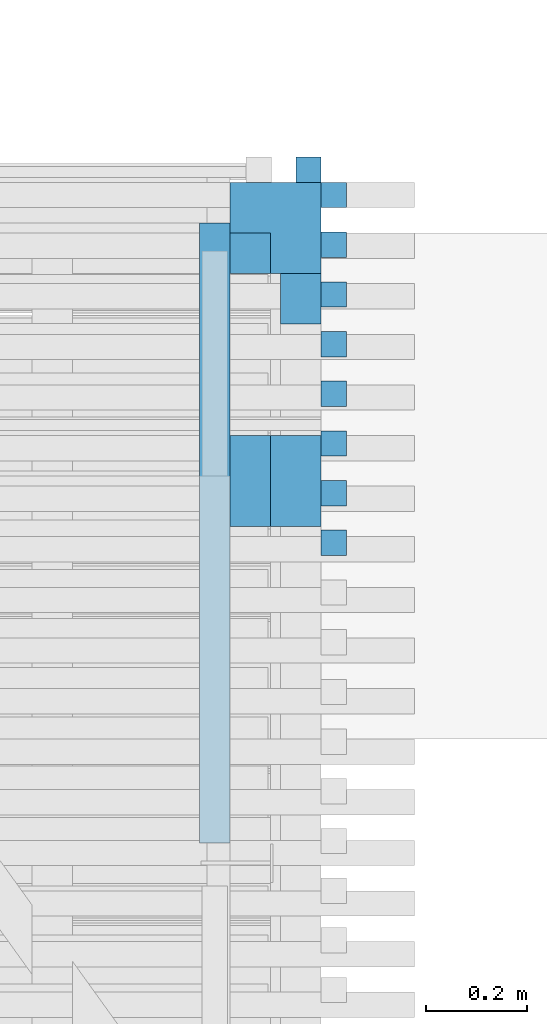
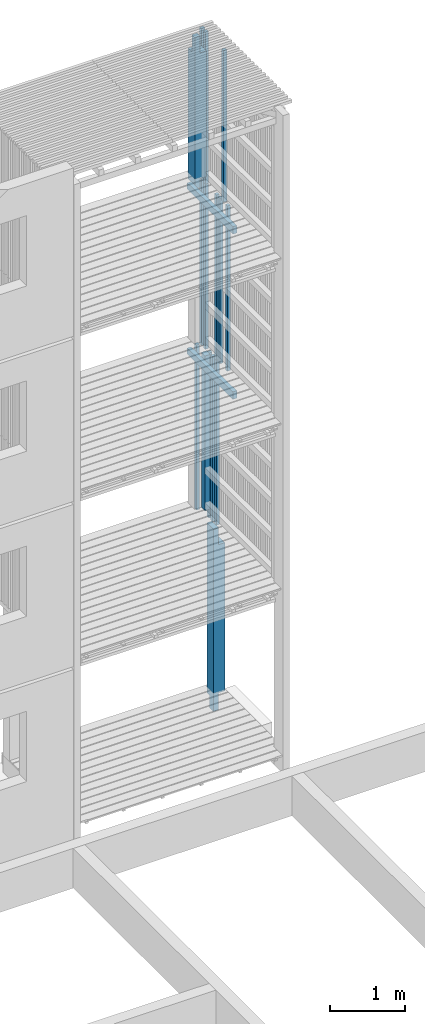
# One storey, part 133 of 182: 17 beams.
"""IFC2X3 building model written with IfcOpenShell, lengths in metres."""

from ifc_helpers import new_model, si_unit, frame, origin, place, context, project, spatial, faceted_brep, element, save


model = new_model("IFC2X3")

# Units and contexts
model_context = context("Model", 3, precision=1e-06, world=origin())
ifc_project = project(units=[si_unit("LENGTHUNIT", "METRE"), si_unit("PLANEANGLEUNIT", "RADIAN")], contexts=[model_context])

# Site, building, storey
site = spatial("IfcSite", under=ifc_project, CompositionType="ELEMENT")
building = spatial("IfcBuilding", under=site, CompositionType="ELEMENT")
storey = spatial("IfcBuildingStorey", under=building, Name="vs", CompositionType="ELEMENT", Elevation=-0.85)

# Beams
placement = place(None, origin())
beam_1_placement = place(placement, frame((56.14499999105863, 5.965077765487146, 8.00424999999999), z_axis=(0.0, 0.0, 1.0), x_axis=(-1.2e-14, 1.0, 0.0)))
element("IfcBeam", 1, at=beam_1_placement, inside=storey, Name="Solive", context=model_context, shape_type="Brep", body=[
    faceted_brep([(-1e-15, -0.029999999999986, 0.061850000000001), (-1e-15, -0.029999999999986, -0.061849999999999), (1.225000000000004, -0.03, -0.061849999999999), (1.225000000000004, -0.03, 0.037349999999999), (-1e-15, -0.029999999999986, -0.061849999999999), (-1e-15, -0.029999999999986, 0.061850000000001), (0.0, 0.030000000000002, 0.061849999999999), (0.0, 0.030000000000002, -0.061849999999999), (1.225000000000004, -0.03, -0.061849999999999), (-1e-15, -0.029999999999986, -0.061849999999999), (0.0, 0.030000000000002, -0.061849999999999), (1.225000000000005, 0.029999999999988, -0.061849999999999), (1.225000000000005, 0.029999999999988, 0.037349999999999), (1.225000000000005, 0.029999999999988, -0.061849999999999), (0.0, 0.030000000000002, -0.061849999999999), (0.0, 0.030000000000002, 0.061849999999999), (1.225000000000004, -0.03, 0.037349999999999), (1.225000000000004, -0.03, -0.061849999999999), (1.225000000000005, 0.029999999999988, -0.061849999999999), (1.225000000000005, 0.029999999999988, 0.037349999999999), (1.225000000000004, -0.03, 0.037349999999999), (1.225000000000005, 0.029999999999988, 0.037349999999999), (0.0, 0.030000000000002, 0.061849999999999), (-1e-15, -0.029999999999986, 0.061850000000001)], [[[0, 1, 2, 3]], [[4, 5, 6, 7]], [[8, 9, 10, 11]], [[12, 13, 14, 15]], [[16, 17, 18, 19]], [[20, 21, 22, 23]]]),
])
beam_2_placement = place(placement, frame((56.37999999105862, 6.852350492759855, 2.575000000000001), z_axis=(-1.0, 0.0, 0.0), x_axis=(0.0, 0.0, 1.0)))
element("IfcBeam", 2, at=beam_2_placement, inside=storey, Name="Bardage", context=model_context, shape_type="Brep", body=[
    faceted_brep([(0.0, -0.024999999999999, 0.024999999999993), (0.0, 0.025000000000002, 0.024999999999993), (0.0, 0.025000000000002, -0.025000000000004), (0.0, -0.024999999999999, -0.025000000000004), (2.699961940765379, 0.025000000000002, -0.025000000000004), (2.699961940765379, 0.025000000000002, 0.024999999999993), (2.699961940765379, -0.024999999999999, 0.024999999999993), (2.699961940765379, -0.024999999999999, -0.025000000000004), (0.0, -0.024999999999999, -0.025000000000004), (0.0, 0.025000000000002, -0.025000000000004), (2.699961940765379, 0.025000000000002, -0.025000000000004), (2.699961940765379, -0.024999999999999, -0.025000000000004), (2.699961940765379, 0.025000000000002, -0.025000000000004), (0.0, 0.025000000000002, -0.025000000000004), (0.0, 0.025000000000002, 0.024999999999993), (2.699961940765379, 0.025000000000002, 0.024999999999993), (2.699961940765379, 0.025000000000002, 0.024999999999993), (0.0, 0.025000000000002, 0.024999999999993), (0.0, -0.024999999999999, 0.024999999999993), (2.699961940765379, -0.024999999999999, 0.024999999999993), (2.699961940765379, -0.024999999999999, 0.024999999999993), (0.0, -0.024999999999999, 0.024999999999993), (0.0, -0.024999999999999, -0.025000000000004), (2.699961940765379, -0.024999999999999, -0.025000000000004)], [[[0, 1, 2, 3]], [[4, 5, 6, 7]], [[8, 9, 10, 11]], [[12, 13, 14, 15]], [[16, 17, 18, 19]], [[20, 21, 22, 23]]]),
])
beam_3_placement = place(placement, frame((56.37999999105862, 6.754168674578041, 5.274999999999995), z_axis=(-1.0, 0.0, 0.0), x_axis=(0.0, 0.0, 1.0)))
element("IfcBeam", 3, at=beam_3_placement, inside=storey, Name="Bardage", context=model_context, shape_type="Brep", body=[
    faceted_brep([(1e-15, -0.024999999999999, 0.024999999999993), (1e-15, 0.024999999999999, 0.024999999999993), (1e-15, 0.024999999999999, -0.025000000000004), (1e-15, -0.024999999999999, -0.025000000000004), (2.699999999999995, -0.024999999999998, -0.025000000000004), (2.699999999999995, 0.024999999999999, -0.025000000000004), (2.699999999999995, 0.024999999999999, 0.024999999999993), (2.699999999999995, -0.024999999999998, 0.024999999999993), (1e-15, -0.024999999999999, 0.024999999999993), (1e-15, -0.024999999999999, -0.025000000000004), (2.699999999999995, -0.024999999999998, -0.025000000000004), (2.699999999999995, -0.024999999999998, 0.024999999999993), (2.699999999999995, -0.024999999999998, -0.025000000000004), (1e-15, -0.024999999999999, -0.025000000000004), (1e-15, 0.024999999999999, -0.025000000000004), (2.699999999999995, 0.024999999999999, -0.025000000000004), (2.699999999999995, 0.024999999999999, -0.025000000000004), (1e-15, 0.024999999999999, -0.025000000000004), (1e-15, 0.024999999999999, 0.024999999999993), (2.699999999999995, 0.024999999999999, 0.024999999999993), (2.699999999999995, 0.024999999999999, 0.024999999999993), (1e-15, 0.024999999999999, 0.024999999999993), (1e-15, -0.024999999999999, 0.024999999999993), (2.699999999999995, -0.024999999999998, 0.024999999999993)], [[[0, 1, 2, 3]], [[4, 5, 6, 7]], [[8, 9, 10, 11]], [[12, 13, 14, 15]], [[16, 17, 18, 19]], [[20, 21, 22, 23]]]),
])
beam_4_placement = place(placement, frame((56.37999999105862, 7.146895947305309, 5.274999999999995), z_axis=(-1.0, 0.0, 0.0), x_axis=(0.0, 0.0, 1.0)))
element("IfcBeam", 4, at=beam_4_placement, inside=storey, Name="Bardage", context=model_context, shape_type="Brep", body=[
    faceted_brep([(1e-15, -0.025000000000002, 0.024999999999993), (1e-15, 0.024999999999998, 0.024999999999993), (1e-15, 0.024999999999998, -0.025000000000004), (1e-15, -0.025000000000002, -0.025000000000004), (2.699999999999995, -0.025000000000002, -0.025000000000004), (2.699999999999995, 0.025000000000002, -0.025000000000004), (2.699999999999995, 0.025000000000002, 0.024999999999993), (2.699999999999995, -0.025000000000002, 0.024999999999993), (1e-15, -0.025000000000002, 0.024999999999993), (1e-15, -0.025000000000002, -0.025000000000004), (2.699999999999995, -0.025000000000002, -0.025000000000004), (2.699999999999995, -0.025000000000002, 0.024999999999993), (2.699999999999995, -0.025000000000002, -0.025000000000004), (1e-15, -0.025000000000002, -0.025000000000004), (1e-15, 0.024999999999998, -0.025000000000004), (2.699999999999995, 0.025000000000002, -0.025000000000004), (2.699999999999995, 0.025000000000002, -0.025000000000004), (1e-15, 0.024999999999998, -0.025000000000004), (1e-15, 0.024999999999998, 0.024999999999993), (2.699999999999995, 0.025000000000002, 0.024999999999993), (2.699999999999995, 0.025000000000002, 0.024999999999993), (1e-15, 0.024999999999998, 0.024999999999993), (1e-15, -0.025000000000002, 0.024999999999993), (2.699999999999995, -0.025000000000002, 0.024999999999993)], [[[0, 1, 2, 3]], [[4, 5, 6, 7]], [[8, 9, 10, 11]], [[12, 13, 14, 15]], [[16, 17, 18, 19]], [[20, 21, 22, 23]]]),
])
beam_5_placement = place(placement, frame((56.37999999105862, 6.852350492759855, 5.274999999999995), z_axis=(-1.0, 0.0, 0.0), x_axis=(0.0, 0.0, 1.0)))
element("IfcBeam", 5, at=beam_5_placement, inside=storey, Name="Bardage", context=model_context, shape_type="Brep", body=[
    faceted_brep([(1e-15, -0.024999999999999, 0.024999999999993), (1e-15, 0.025000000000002, 0.024999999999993), (1e-15, 0.025000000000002, -0.025000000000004), (1e-15, -0.024999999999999, -0.025000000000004), (2.699999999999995, -0.024999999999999, -0.025000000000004), (2.699999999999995, 0.025000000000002, -0.025000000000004), (2.699999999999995, 0.025000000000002, 0.024999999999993), (2.699999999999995, -0.024999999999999, 0.024999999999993), (1e-15, -0.024999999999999, 0.024999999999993), (1e-15, -0.024999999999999, -0.025000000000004), (2.699999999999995, -0.024999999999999, -0.025000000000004), (2.699999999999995, -0.024999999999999, 0.024999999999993), (2.699999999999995, -0.024999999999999, -0.025000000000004), (1e-15, -0.024999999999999, -0.025000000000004), (1e-15, 0.025000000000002, -0.025000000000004), (2.699999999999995, 0.025000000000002, -0.025000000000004), (2.699999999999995, 0.025000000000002, -0.025000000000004), (1e-15, 0.025000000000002, -0.025000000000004), (1e-15, 0.025000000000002, 0.024999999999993), (2.699999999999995, 0.025000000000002, 0.024999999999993), (2.699999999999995, 0.025000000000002, 0.024999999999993), (1e-15, 0.025000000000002, 0.024999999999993), (1e-15, -0.024999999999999, 0.024999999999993), (2.699999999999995, -0.024999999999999, 0.024999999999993)], [[[0, 1, 2, 3]], [[4, 5, 6, 7]], [[8, 9, 10, 11]], [[12, 13, 14, 15]], [[16, 17, 18, 19]], [[20, 21, 22, 23]]]),
])
beam_6_placement = place(placement, frame((56.32999999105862, 7.295077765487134, 2.575000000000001), z_axis=(0.0, -1.0, 0.0), x_axis=(0.0, 0.0, 1.0)))
element("IfcBeam", 6, at=beam_6_placement, inside=storey, Name="Bardage", context=model_context, shape_type="Brep", body=[
    faceted_brep([(2.699961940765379, -0.025000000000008, 0.025000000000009), (2.699961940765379, -0.025000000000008, -0.024999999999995), (2.699961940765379, 0.02499999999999, -0.025000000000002), (2.699961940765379, 0.025000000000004, 0.025000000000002), (0.0, -0.025000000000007, 0.025000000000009), (2.699961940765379, -0.025000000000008, 0.025000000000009), (2.699961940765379, 0.025000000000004, 0.025000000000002), (0.0, 0.025000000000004, 0.025000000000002), (0.0, -0.025000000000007, 0.025000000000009), (0.0, 0.025000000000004, 0.025000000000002), (0.0, 0.02499999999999, -0.025000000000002), (0.0, -0.025000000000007, -0.024999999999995), (0.0, -0.025000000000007, 0.025000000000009), (0.0, -0.025000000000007, -0.024999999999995), (2.699961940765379, -0.025000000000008, -0.024999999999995), (2.699961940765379, -0.025000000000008, 0.025000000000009), (0.0, -0.025000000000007, -0.024999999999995), (0.0, 0.02499999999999, -0.025000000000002), (2.699961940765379, 0.02499999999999, -0.025000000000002), (2.699961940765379, -0.025000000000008, -0.024999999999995), (0.0, 0.02499999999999, -0.025000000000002), (0.0, 0.025000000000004, 0.025000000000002), (2.699961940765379, 0.025000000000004, 0.025000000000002), (2.699961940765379, 0.02499999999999, -0.025000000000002)], [[[0, 1, 2, 3]], [[4, 5, 6, 7]], [[8, 9, 10, 11]], [[12, 13, 14, 15]], [[16, 17, 18, 19]], [[20, 21, 22, 23]]]),
])
beam_7_placement = place(placement, frame((56.37999999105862, 6.557805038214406, 5.274999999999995), z_axis=(-1.0, 0.0, 0.0), x_axis=(0.0, 0.0, 1.0)))
element("IfcBeam", 7, at=beam_7_placement, inside=storey, Name="Bardage", context=model_context, shape_type="Brep", body=[
    faceted_brep([(1e-15, -0.024999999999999, 0.024999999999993), (1e-15, 0.024999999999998, 0.024999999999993), (1e-15, 0.024999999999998, -0.025000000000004), (1e-15, -0.024999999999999, -0.025000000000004), (2.699999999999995, -0.024999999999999, -0.025000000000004), (2.699999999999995, 0.025000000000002, -0.025000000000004), (2.699999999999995, 0.025000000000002, 0.024999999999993), (2.699999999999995, -0.024999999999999, 0.024999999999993), (1e-15, -0.024999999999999, 0.024999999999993), (1e-15, -0.024999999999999, -0.025000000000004), (2.699999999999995, -0.024999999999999, -0.025000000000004), (2.699999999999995, -0.024999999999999, 0.024999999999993), (2.699999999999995, -0.024999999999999, -0.025000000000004), (1e-15, -0.024999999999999, -0.025000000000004), (1e-15, 0.024999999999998, -0.025000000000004), (2.699999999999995, 0.025000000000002, -0.025000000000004), (2.699999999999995, 0.025000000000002, -0.025000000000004), (1e-15, 0.024999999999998, -0.025000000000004), (1e-15, 0.024999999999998, 0.024999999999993), (2.699999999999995, 0.025000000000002, 0.024999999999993), (2.699999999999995, 0.025000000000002, 0.024999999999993), (1e-15, 0.024999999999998, 0.024999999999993), (1e-15, -0.024999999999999, 0.024999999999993), (2.699999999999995, -0.024999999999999, 0.024999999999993)], [[[0, 1, 2, 3]], [[4, 5, 6, 7]], [[8, 9, 10, 11]], [[12, 13, 14, 15]], [[16, 17, 18, 19]], [[20, 21, 22, 23]]]),
])
beam_8_placement = place(placement, frame((56.37999999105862, 6.655986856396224, 7.974999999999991), z_axis=(-1.0, 0.0, 0.0), x_axis=(0.0, 0.0, 1.0)))
element("IfcBeam", 8, at=beam_8_placement, inside=storey, Name="Bardage", context=model_context, shape_type="Brep", body=[
    faceted_brep([(2.479999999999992, -0.025000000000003, 0.024999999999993), (2.479999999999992, -0.025000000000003, -0.025000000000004), (2.479999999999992, 0.025000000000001, -0.025000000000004), (2.479999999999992, 0.025000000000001, 0.024999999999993), (0.0, 0.025000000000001, 0.024999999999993), (0.0, -0.025000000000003, 0.024999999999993), (2.479999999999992, -0.025000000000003, 0.024999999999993), (2.479999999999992, 0.025000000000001, 0.024999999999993), (0.0, -0.025000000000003, 0.024999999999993), (0.0, 0.025000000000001, 0.024999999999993), (0.0, 0.025000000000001, -0.025000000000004), (0.0, -0.025000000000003, -0.025000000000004), (0.0, 0.025000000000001, -0.025000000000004), (0.0, 0.025000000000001, 0.024999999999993), (2.479999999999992, 0.025000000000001, 0.024999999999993), (2.479999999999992, 0.025000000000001, -0.025000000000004), (0.0, -0.025000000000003, -0.025000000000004), (0.0, 0.025000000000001, -0.025000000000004), (2.479999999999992, 0.025000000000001, -0.025000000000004), (2.479999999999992, -0.025000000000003, -0.025000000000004), (2.479999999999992, -0.025000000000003, 0.024999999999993), (0.0, -0.025000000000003, 0.024999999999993), (0.0, -0.025000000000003, -0.025000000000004), (2.479999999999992, -0.025000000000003, -0.025000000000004)], [[[0, 1, 2, 3]], [[4, 5, 6, 7]], [[8, 9, 10, 11]], [[12, 13, 14, 15]], [[16, 17, 18, 19]], [[20, 21, 22, 23]]]),
])
beam_9_placement = place(placement, frame((56.37999999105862, 6.950532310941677, 2.575000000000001), z_axis=(-1.0, 0.0, 0.0), x_axis=(0.0, 0.0, 1.0)))
element("IfcBeam", 9, at=beam_9_placement, inside=storey, Name="Bardage", context=model_context, shape_type="Brep", body=[
    faceted_brep([(0.0, -0.025000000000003, 0.024999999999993), (0.0, 0.024999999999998, 0.024999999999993), (0.0, 0.024999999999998, -0.025000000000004), (0.0, -0.025000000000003, -0.025000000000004), (2.699961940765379, 0.024999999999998, -0.025000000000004), (2.699961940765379, 0.024999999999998, 0.024999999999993), (2.699961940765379, -0.025000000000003, 0.024999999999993), (2.699961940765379, -0.025000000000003, -0.025000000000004), (0.0, -0.025000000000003, -0.025000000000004), (0.0, 0.024999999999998, -0.025000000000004), (2.699961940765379, 0.024999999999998, -0.025000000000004), (2.699961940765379, -0.025000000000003, -0.025000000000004), (2.699961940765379, 0.024999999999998, -0.025000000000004), (0.0, 0.024999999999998, -0.025000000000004), (0.0, 0.024999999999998, 0.024999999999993), (2.699961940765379, 0.024999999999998, 0.024999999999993), (2.699961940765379, 0.024999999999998, 0.024999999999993), (0.0, 0.024999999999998, 0.024999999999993), (0.0, -0.025000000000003, 0.024999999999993), (2.699961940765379, -0.025000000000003, 0.024999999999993), (2.699961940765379, -0.025000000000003, 0.024999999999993), (0.0, -0.025000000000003, 0.024999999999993), (0.0, -0.025000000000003, -0.025000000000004), (2.699961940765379, -0.025000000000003, -0.025000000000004)], [[[0, 1, 2, 3]], [[4, 5, 6, 7]], [[8, 9, 10, 11]], [[12, 13, 14, 15]], [[16, 17, 18, 19]], [[20, 21, 22, 23]]]),
])
beam_10_placement = place(placement, frame((56.37999999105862, 7.24507776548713, 5.274999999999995), z_axis=(-1.0, 0.0, 0.0), x_axis=(0.0, 0.0, 1.0)))
element("IfcBeam", 10, at=beam_10_placement, inside=storey, Name="Bardage", context=model_context, shape_type="Brep", body=[
    faceted_brep([(1e-15, -0.025000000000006, 0.024999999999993), (1e-15, 0.024999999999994, 0.024999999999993), (1e-15, 0.024999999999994, -0.025000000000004), (1e-15, -0.025000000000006, -0.025000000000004), (2.699999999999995, -0.025000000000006, -0.025000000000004), (2.699999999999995, 0.024999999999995, -0.025000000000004), (2.699999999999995, 0.024999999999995, 0.024999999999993), (2.699999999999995, -0.025000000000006, 0.024999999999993), (1e-15, -0.025000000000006, 0.024999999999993), (1e-15, -0.025000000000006, -0.025000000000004), (2.699999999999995, -0.025000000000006, -0.025000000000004), (2.699999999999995, -0.025000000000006, 0.024999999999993), (2.699999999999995, -0.025000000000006, -0.025000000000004), (1e-15, -0.025000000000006, -0.025000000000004), (1e-15, 0.024999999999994, -0.025000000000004), (2.699999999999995, 0.024999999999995, -0.025000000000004), (2.699999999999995, 0.024999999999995, -0.025000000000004), (1e-15, 0.024999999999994, -0.025000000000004), (1e-15, 0.024999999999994, 0.024999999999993), (2.699999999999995, 0.024999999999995, 0.024999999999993), (2.699999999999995, 0.024999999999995, 0.024999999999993), (1e-15, 0.024999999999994, 0.024999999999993), (1e-15, -0.025000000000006, 0.024999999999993), (2.699999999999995, -0.025000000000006, 0.024999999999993)], [[[0, 1, 2, 3]], [[4, 5, 6, 7]], [[8, 9, 10, 11]], [[12, 13, 14, 15]], [[16, 17, 18, 19]], [[20, 21, 22, 23]]]),
])
beam_11_placement = place(placement, frame((56.37999999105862, 7.146895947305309, 7.974999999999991), z_axis=(-1.0, 0.0, 0.0), x_axis=(0.0, 0.0, 1.0)))
element("IfcBeam", 11, at=beam_11_placement, inside=storey, Name="Bardage", context=model_context, shape_type="Brep", body=[
    faceted_brep([(2.479999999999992, -0.025000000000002, 0.024999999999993), (2.479999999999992, -0.025000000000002, -0.025000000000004), (2.479999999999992, 0.025000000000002, -0.025000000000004), (2.479999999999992, 0.025000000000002, 0.024999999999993), (0.0, 0.024999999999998, 0.024999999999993), (0.0, -0.025000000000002, 0.024999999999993), (2.479999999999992, -0.025000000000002, 0.024999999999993), (2.479999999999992, 0.025000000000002, 0.024999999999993), (0.0, -0.025000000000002, 0.024999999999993), (0.0, 0.024999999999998, 0.024999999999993), (0.0, 0.024999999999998, -0.025000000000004), (0.0, -0.025000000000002, -0.025000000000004), (0.0, 0.024999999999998, -0.025000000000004), (0.0, 0.024999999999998, 0.024999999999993), (2.479999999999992, 0.025000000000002, 0.024999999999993), (2.479999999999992, 0.025000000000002, -0.025000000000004), (0.0, -0.025000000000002, -0.025000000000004), (0.0, 0.024999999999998, -0.025000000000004), (2.479999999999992, 0.025000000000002, -0.025000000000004), (2.479999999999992, -0.025000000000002, -0.025000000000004), (2.479999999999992, -0.025000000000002, 0.024999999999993), (0.0, -0.025000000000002, 0.024999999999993), (0.0, -0.025000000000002, -0.025000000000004), (2.479999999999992, -0.025000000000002, -0.025000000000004)], [[[0, 1, 2, 3]], [[4, 5, 6, 7]], [[8, 9, 10, 11]], [[12, 13, 14, 15]], [[16, 17, 18, 19]], [[20, 21, 22, 23]]]),
])
beam_12_placement = place(placement, frame((56.37999999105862, 7.048714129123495, 2.575000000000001), z_axis=(-1.0, 0.0, 0.0), x_axis=(0.0, 0.0, 1.0)))
element("IfcBeam", 12, at=beam_12_placement, inside=storey, Name="Bardage", context=model_context, shape_type="Brep", body=[
    faceted_brep([(0.0, -0.025000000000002, 0.024999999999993), (0.0, 0.024999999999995, 0.024999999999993), (0.0, 0.024999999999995, -0.025000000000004), (0.0, -0.025000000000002, -0.025000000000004), (2.699961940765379, 0.024999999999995, -0.025000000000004), (2.699961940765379, 0.024999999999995, 0.024999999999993), (2.699961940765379, -0.025000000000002, 0.024999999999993), (2.699961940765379, -0.025000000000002, -0.025000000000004), (0.0, -0.025000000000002, -0.025000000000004), (0.0, 0.024999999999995, -0.025000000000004), (2.699961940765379, 0.024999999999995, -0.025000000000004), (2.699961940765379, -0.025000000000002, -0.025000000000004), (2.699961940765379, 0.024999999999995, -0.025000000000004), (0.0, 0.024999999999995, -0.025000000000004), (0.0, 0.024999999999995, 0.024999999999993), (2.699961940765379, 0.024999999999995, 0.024999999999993), (2.699961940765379, 0.024999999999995, 0.024999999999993), (0.0, 0.024999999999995, 0.024999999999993), (0.0, -0.025000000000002, 0.024999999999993), (2.699961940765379, -0.025000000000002, 0.024999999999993), (2.699961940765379, -0.025000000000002, 0.024999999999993), (0.0, -0.025000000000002, 0.024999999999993), (0.0, -0.025000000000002, -0.025000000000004), (2.699961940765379, -0.025000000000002, -0.025000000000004)], [[[0, 1, 2, 3]], [[4, 5, 6, 7]], [[8, 9, 10, 11]], [[12, 13, 14, 15]], [[16, 17, 18, 19]], [[20, 21, 22, 23]]]),
])
beam_13_placement = place(placement, frame((56.37999999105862, 7.24507776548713, 7.974999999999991), z_axis=(-1.0, 0.0, 0.0), x_axis=(0.0, 0.0, 1.0)))
element("IfcBeam", 13, at=beam_13_placement, inside=storey, Name="Bardage", context=model_context, shape_type="Brep", body=[
    faceted_brep([(2.479999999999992, -0.025000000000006, 0.024999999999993), (2.479999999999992, -0.025000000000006, -0.025000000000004), (2.479999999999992, 0.024999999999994, -0.025000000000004), (2.479999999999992, 0.024999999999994, 0.024999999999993), (0.0, 0.024999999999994, 0.024999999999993), (0.0, -0.025000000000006, 0.024999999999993), (2.479999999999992, -0.025000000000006, 0.024999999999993), (2.479999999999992, 0.024999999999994, 0.024999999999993), (0.0, -0.025000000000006, 0.024999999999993), (0.0, 0.024999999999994, 0.024999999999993), (0.0, 0.024999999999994, -0.025000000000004), (0.0, -0.025000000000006, -0.025000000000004), (0.0, 0.024999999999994, -0.025000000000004), (0.0, 0.024999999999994, 0.024999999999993), (2.479999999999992, 0.024999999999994, 0.024999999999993), (2.479999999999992, 0.024999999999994, -0.025000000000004), (0.0, -0.025000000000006, -0.025000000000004), (0.0, 0.024999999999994, -0.025000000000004), (2.479999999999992, 0.024999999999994, -0.025000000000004), (2.479999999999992, -0.025000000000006, -0.025000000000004), (2.479999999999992, -0.025000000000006, 0.024999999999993), (0.0, -0.025000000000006, 0.024999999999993), (0.0, -0.025000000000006, -0.025000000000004), (2.479999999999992, -0.025000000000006, -0.025000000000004)], [[[0, 1, 2, 3]], [[4, 5, 6, 7]], [[8, 9, 10, 11]], [[12, 13, 14, 15]], [[16, 17, 18, 19]], [[20, 21, 22, 23]]]),
])
beam_14_placement = place(placement, frame((56.14499999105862, 5.965077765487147, 5.304249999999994), z_axis=(0.0, 0.0, 1.0), x_axis=(0.0, 1.0, 0.0)))
element("IfcBeam", 14, at=beam_14_placement, inside=storey, Name="Solive", context=model_context, shape_type="Brep", body=[
    faceted_brep([(0.0, -0.03, 0.061850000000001), (0.0, -0.03, -0.061849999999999), (1.225000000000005, -0.03, -0.061849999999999), (1.225000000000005, -0.03, 0.03735), (0.0, -0.03, -0.061849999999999), (0.0, -0.03, 0.061850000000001), (0.0, 0.029999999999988, 0.06185), (0.0, 0.029999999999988, -0.061849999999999), (1.225000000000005, -0.03, -0.061849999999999), (0.0, -0.03, -0.061849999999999), (0.0, 0.029999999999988, -0.061849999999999), (1.225000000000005, 0.029999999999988, -0.061849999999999), (1.225000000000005, 0.029999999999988, 0.03735), (1.225000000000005, 0.029999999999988, -0.061849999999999), (0.0, 0.029999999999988, -0.061849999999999), (0.0, 0.029999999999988, 0.06185), (1.225000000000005, -0.03, 0.03735), (1.225000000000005, -0.03, -0.061849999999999), (1.225000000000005, 0.029999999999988, -0.061849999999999), (1.225000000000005, 0.029999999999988, 0.03735), (1.225000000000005, -0.03, 0.03735), (1.225000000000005, 0.029999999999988, 0.03735), (0.0, 0.029999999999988, 0.06185), (0.0, -0.03, 0.061850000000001)], [[[0, 1, 2, 3]], [[4, 5, 6, 7]], [[8, 9, 10, 11]], [[12, 13, 14, 15]], [[16, 17, 18, 19]], [[20, 21, 22, 23]]]),
])
beam_15_placement = place(placement, frame((56.314999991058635, 7.040077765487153, 2.746999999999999), z_axis=(0.0, -1.0, 0.0), x_axis=(0.0, 0.0, 1.0)))
element("IfcBeam", 15, at=beam_15_placement, inside=storey, Name="Support bardage", context=model_context, shape_type="Brep", body=[
    faceted_brep([(2.527961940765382, -0.039999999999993, -0.05), (2.527961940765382, 0.04000000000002, -0.05), (2.527961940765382, 0.04000000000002, 0.050000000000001), (2.527961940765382, -0.039999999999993, 0.050000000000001), (0.0, -0.039999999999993, 0.050000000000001), (0.0, -0.039999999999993, -0.05), (2.527961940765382, -0.039999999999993, -0.05), (2.527961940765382, -0.039999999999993, 0.050000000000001), (0.0, -0.039999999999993, -0.05), (0.0, -0.039999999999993, 0.050000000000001), (0.0, 0.04000000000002, 0.050000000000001), (0.0, 0.04000000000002, -0.05), (2.527961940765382, -0.039999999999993, -0.05), (0.0, -0.039999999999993, -0.05), (0.0, 0.04000000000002, -0.05), (2.527961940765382, 0.04000000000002, -0.05), (2.527961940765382, 0.04000000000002, -0.05), (0.0, 0.04000000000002, -0.05), (0.0, 0.04000000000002, 0.050000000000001), (2.527961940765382, 0.04000000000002, 0.050000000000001), (2.527961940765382, 0.04000000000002, 0.050000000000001), (0.0, 0.04000000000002, 0.050000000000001), (0.0, -0.039999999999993, 0.050000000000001), (2.527961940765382, -0.039999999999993, 0.050000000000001)], [[[0, 1, 2, 3]], [[4, 5, 6, 7]], [[8, 9, 10, 11]], [[12, 13, 14, 15]], [[16, 17, 18, 19]], [[20, 21, 22, 23]]]),
])
beam_16_placement = place(placement, frame((56.26499999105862, 7.180077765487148, 7.979999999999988), z_axis=(0.0, -1.0, 0.0), x_axis=(0.0, 0.0, 1.0)))
element("IfcBeam", 16, at=beam_16_placement, inside=storey, Name="Poteau", context=model_context, shape_type="Brep", body=[
    faceted_brep([(2.474999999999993, 0.009999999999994, 0.089999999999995), (2.474999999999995, 0.009999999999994, 0.009999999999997), (2.474999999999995, 0.090000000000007, 0.009999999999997), (2.474999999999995, 0.090000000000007, 0.089999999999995), (2.194999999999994, 0.009999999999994, 0.089999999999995), (2.194999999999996, 0.009999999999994, 0.009999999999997), (2.474999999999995, 0.009999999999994, 0.009999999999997), (2.474999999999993, 0.009999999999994, 0.089999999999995), (2.194999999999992, -0.09, 0.089999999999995), (2.194999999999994, -0.09, -0.090000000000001), (2.194999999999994, 0.090000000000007, -0.090000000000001), (2.194999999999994, 0.090000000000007, 0.009999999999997), (2.194999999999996, 0.009999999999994, 0.009999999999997), (2.194999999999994, 0.009999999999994, 0.089999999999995), (2.474999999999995, 0.090000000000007, 0.009999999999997), (2.474999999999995, 0.009999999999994, 0.009999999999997), (2.194999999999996, 0.009999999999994, 0.009999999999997), (2.194999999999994, 0.090000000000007, 0.009999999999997), (0.059999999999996, 0.090000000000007, -0.010000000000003), (-1e-15, 0.090000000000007, -0.010000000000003), (-1e-15, 0.090000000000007, 0.089999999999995), (2.474999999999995, 0.090000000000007, 0.089999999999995), (2.474999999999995, 0.090000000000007, 0.009999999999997), (2.194999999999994, 0.090000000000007, 0.009999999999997), (2.194999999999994, 0.090000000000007, -0.090000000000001), (0.059999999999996, 0.090000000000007, -0.090000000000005), (0.139999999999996, -0.09, 0.089999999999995), (0.139999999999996, 0.009999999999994, 0.089999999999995), (0.139999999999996, 0.009999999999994, -0.090000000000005), (0.139999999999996, -0.09, -0.090000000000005), (-1e-15, 0.090000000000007, -0.010000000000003), (0.059999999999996, 0.090000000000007, -0.010000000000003), (0.059999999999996, 0.009999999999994, -0.009999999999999), (-1e-15, 0.009999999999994, -0.010000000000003), (-1e-15, 0.090000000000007, 0.089999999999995), (-1e-15, 0.090000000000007, -0.010000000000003), (-1e-15, 0.009999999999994, -0.010000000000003), (-1e-15, 0.009999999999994, 0.089999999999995), (0.139999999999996, 0.009999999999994, -0.090000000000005), (0.139999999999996, 0.009999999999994, 0.089999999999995), (-1e-15, 0.009999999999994, 0.089999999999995), (-1e-15, 0.009999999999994, -0.010000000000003), (0.059999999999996, 0.009999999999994, -0.009999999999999), (0.059999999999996, 0.009999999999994, -0.090000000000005), (0.059999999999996, 0.009999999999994, -0.090000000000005), (0.059999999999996, 0.009999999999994, -0.009999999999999), (0.059999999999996, 0.090000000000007, -0.010000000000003), (0.059999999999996, 0.090000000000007, -0.090000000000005), (0.139999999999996, -0.09, -0.090000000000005), (0.139999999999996, 0.009999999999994, -0.090000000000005), (0.059999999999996, 0.009999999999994, -0.090000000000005), (0.059999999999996, 0.090000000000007, -0.090000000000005), (2.194999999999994, 0.090000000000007, -0.090000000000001), (2.194999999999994, -0.09, -0.090000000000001), (2.194999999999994, -0.09, -0.090000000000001), (2.194999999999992, -0.09, 0.089999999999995), (0.139999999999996, -0.09, 0.089999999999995), (0.139999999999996, -0.09, -0.090000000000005), (-1e-15, 0.090000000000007, 0.089999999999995), (-1e-15, 0.009999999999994, 0.089999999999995), (0.139999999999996, 0.009999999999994, 0.089999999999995), (0.139999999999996, -0.09, 0.089999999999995), (2.194999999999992, -0.09, 0.089999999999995), (2.194999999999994, 0.009999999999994, 0.089999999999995), (2.474999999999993, 0.009999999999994, 0.089999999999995), (2.474999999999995, 0.090000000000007, 0.089999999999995)], [[[0, 1, 2, 3]], [[4, 5, 6, 7]], [[8, 9, 10, 11, 12, 13]], [[14, 15, 16, 17]], [[18, 19, 20, 21, 22, 23, 24, 25]], [[26, 27, 28, 29]], [[30, 31, 32, 33]], [[34, 35, 36, 37]], [[38, 39, 40, 41, 42, 43]], [[44, 45, 46, 47]], [[48, 49, 50, 51, 52, 53]], [[54, 55, 56, 57]], [[58, 59, 60, 61, 62, 63, 64, 65]]]),
])
beam_17_placement = place(placement, frame((56.26499999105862, 6.680077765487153, -0.26), z_axis=(0.0, -1.0, 0.0), x_axis=(0.0, 0.0, 1.0)))
element("IfcBeam", 17, at=beam_17_placement, inside=storey, Name="Poteau", context=model_context, shape_type="Brep", body=[
    faceted_brep([(2.699999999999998, -0.09, -0.09), (2.699999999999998, -0.09, 0.09), (0.28, -0.09, 0.09), (0.280000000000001, -0.09, -0.09), (0.0, 0.090000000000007, 0.09), (0.0, 0.090000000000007, -0.009999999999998), (0.0, 0.010000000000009, -0.009999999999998), (0.0, 0.010000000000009, 0.09), (0.280000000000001, -0.09, -0.09), (0.28, -0.09, 0.09), (0.28, 0.010000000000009, 0.09), (0.28, 0.010000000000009, -0.09), (0.200000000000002, 0.090000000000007, -0.09), (0.200000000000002, 0.010000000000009, -0.09), (0.200000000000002, 0.010000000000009, -0.009999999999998), (0.200000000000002, 0.090000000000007, -0.009999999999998), (0.200000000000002, 0.090000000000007, -0.009999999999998), (0.200000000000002, 0.010000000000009, -0.009999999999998), (0.0, 0.010000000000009, -0.009999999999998), (0.0, 0.090000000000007, -0.009999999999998), (0.0, 0.010000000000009, -0.009999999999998), (0.200000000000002, 0.010000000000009, -0.009999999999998), (0.200000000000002, 0.010000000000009, -0.09), (0.28, 0.010000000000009, -0.09), (0.28, 0.010000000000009, 0.09), (0.0, 0.010000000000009, 0.09), (2.979999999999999, 0.010000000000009, -0.09), (2.699999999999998, 0.010000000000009, -0.09), (2.699999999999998, -0.09, -0.09), (0.280000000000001, -0.09, -0.09), (0.28, 0.010000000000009, -0.09), (0.200000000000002, 0.010000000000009, -0.09), (0.200000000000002, 0.090000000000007, -0.09), (2.979999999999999, 0.090000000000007, -0.09), (2.979999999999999, 0.090000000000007, -0.09), (0.200000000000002, 0.090000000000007, -0.09), (0.200000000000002, 0.090000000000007, -0.009999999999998), (0.0, 0.090000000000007, -0.009999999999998), (0.0, 0.090000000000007, 0.09), (2.979999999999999, 0.090000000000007, 0.09), (2.699999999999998, 0.010000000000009, 0.09), (2.979999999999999, 0.010000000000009, 0.09), (2.979999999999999, 0.090000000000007, 0.09), (0.0, 0.090000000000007, 0.09), (0.0, 0.010000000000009, 0.09), (0.28, 0.010000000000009, 0.09), (0.28, -0.09, 0.09), (2.699999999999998, -0.09, 0.09), (2.979999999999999, 0.090000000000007, -0.09), (2.979999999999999, 0.090000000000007, 0.09), (2.979999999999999, 0.010000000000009, 0.09), (2.979999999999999, 0.010000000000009, -0.09), (2.979999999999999, 0.010000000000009, -0.09), (2.979999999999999, 0.010000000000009, 0.09), (2.699999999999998, 0.010000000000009, 0.09), (2.699999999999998, 0.010000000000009, -0.09), (2.699999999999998, 0.010000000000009, -0.09), (2.699999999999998, 0.010000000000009, 0.09), (2.699999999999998, -0.09, 0.09), (2.699999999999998, -0.09, -0.09)], [[[0, 1, 2, 3]], [[4, 5, 6, 7]], [[8, 9, 10, 11]], [[12, 13, 14, 15]], [[16, 17, 18, 19]], [[20, 21, 22, 23, 24, 25]], [[26, 27, 28, 29, 30, 31, 32, 33]], [[34, 35, 36, 37, 38, 39]], [[40, 41, 42, 43, 44, 45, 46, 47]], [[48, 49, 50, 51]], [[52, 53, 54, 55]], [[56, 57, 58, 59]]]),
])

save(model, "model.ifc")
